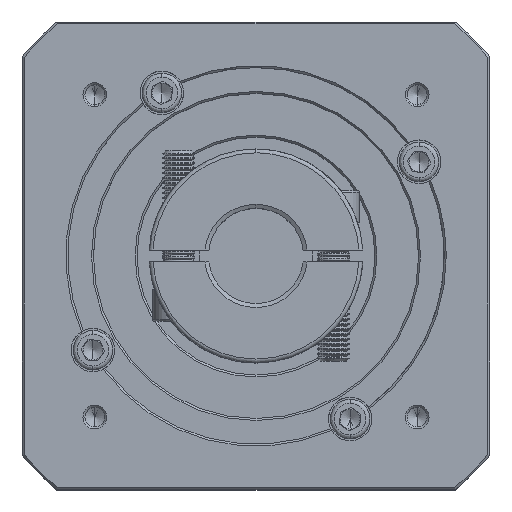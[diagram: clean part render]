
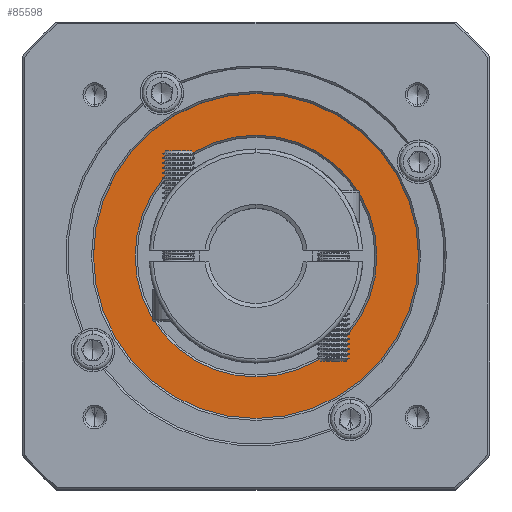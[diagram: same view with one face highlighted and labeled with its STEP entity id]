
A CAD part, top view. The second image highlights one B-rep face of the part: STEP entity #85598.
In plain terms, the highlighted planar face has unit normal (0, 0, 1).
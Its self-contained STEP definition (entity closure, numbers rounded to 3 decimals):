
#1456 = CIRCLE ( 'NONE', #12558, 30.5 ) ;
#3591 = CARTESIAN_POINT ( 'NONE',  ( 49.409, 16.052, -32.414 ) ) ;
#6029 = ORIENTED_EDGE ( 'NONE', *, *, #76631, .T. ) ;
#9543 = AXIS2_PLACEMENT_3D ( 'NONE', #36316, #24682, #78843 ) ;
#12558 = AXIS2_PLACEMENT_3D ( 'NONE', #78708, #34308, #46480 ) ;
#15387 = CARTESIAN_POINT ( 'NONE',  ( 49.409, 26.552, -32.414 ) ) ;
#16835 = CIRCLE ( 'NONE', #79421, 41. ) ;
#18201 = DIRECTION ( 'NONE',  ( 0., 1., 0. ) ) ;
#18518 = VERTEX_POINT ( 'NONE', #32817 ) ;
#21828 = CIRCLE ( 'NONE', #9543, 30.5 ) ;
#24682 = DIRECTION ( 'NONE',  ( 0., 0., -1. ) ) ;
#28672 = EDGE_CURVE ( 'NONE', #42039, #70983, #125112, .T. ) ;
#31501 = EDGE_CURVE ( 'NONE', #60427, #18518, #1456, .T. ) ;
#32817 = CARTESIAN_POINT ( 'NONE',  ( 49.409, 87.552, -32.414 ) ) ;
#34308 = DIRECTION ( 'NONE',  ( 0., 0., -1. ) ) ;
#36316 = CARTESIAN_POINT ( 'NONE',  ( 49.409, 57.052, -32.414 ) ) ;
#36850 = AXIS2_PLACEMENT_3D ( 'NONE', #61664, #83117, #18201 ) ;
#39161 = DIRECTION ( 'NONE',  ( 0., 0., 1. ) ) ;
#40082 = CARTESIAN_POINT ( 'NONE',  ( 49.409, 57.052, -32.414 ) ) ;
#42039 = VERTEX_POINT ( 'NONE', #70738 ) ;
#42353 = FACE_BOUND ( 'NONE', #121399, .T. ) ;
#46480 = DIRECTION ( 'NONE',  ( 0., 1., 0. ) ) ;
#46902 = EDGE_LOOP ( 'NONE', ( #114201, #6029 ) ) ;
#47088 = DIRECTION ( 'NONE',  ( 0., 0., 1. ) ) ;
#56074 = ORIENTED_EDGE ( 'NONE', *, *, #76629, .T. ) ;
#56423 = CARTESIAN_POINT ( 'NONE',  ( 49.409, 57.052, -32.414 ) ) ;
#57871 = AXIS2_PLACEMENT_3D ( 'NONE', #40082, #39161, #115412 ) ;
#60427 = VERTEX_POINT ( 'NONE', #15387 ) ;
#61664 = CARTESIAN_POINT ( 'NONE',  ( 49.409, 57.052, -32.414 ) ) ;
#69187 = FACE_OUTER_BOUND ( 'NONE', #46902, .T. ) ;
#70738 = CARTESIAN_POINT ( 'NONE',  ( 49.409, 98.052, -32.414 ) ) ;
#70983 = VERTEX_POINT ( 'NONE', #3591 ) ;
#76629 = EDGE_CURVE ( 'NONE', #18518, #60427, #21828, .T. ) ;
#76631 = EDGE_CURVE ( 'NONE', #70983, #42039, #16835, .T. ) ;
#78392 = DIRECTION ( 'NONE',  ( 0., 1., 0. ) ) ;
#78708 = CARTESIAN_POINT ( 'NONE',  ( 49.409, 57.052, -32.414 ) ) ;
#78843 = DIRECTION ( 'NONE',  ( 0., 1., 0. ) ) ;
#79421 = AXIS2_PLACEMENT_3D ( 'NONE', #56423, #47088, #78392 ) ;
#79456 = ORIENTED_EDGE ( 'NONE', *, *, #31501, .T. ) ;
#83117 = DIRECTION ( 'NONE',  ( 0., 0., 1. ) ) ;
#85598 = ADVANCED_FACE ( 'NONE', ( #69187, #42353 ), #135639, .T. ) ;
#114201 = ORIENTED_EDGE ( 'NONE', *, *, #28672, .T. ) ;
#115412 = DIRECTION ( 'NONE',  ( 0., 1., 0. ) ) ;
#121399 = EDGE_LOOP ( 'NONE', ( #56074, #79456 ) ) ;
#125112 = CIRCLE ( 'NONE', #57871, 41. ) ;
#135639 = PLANE ( 'NONE',  #36850 ) ;
